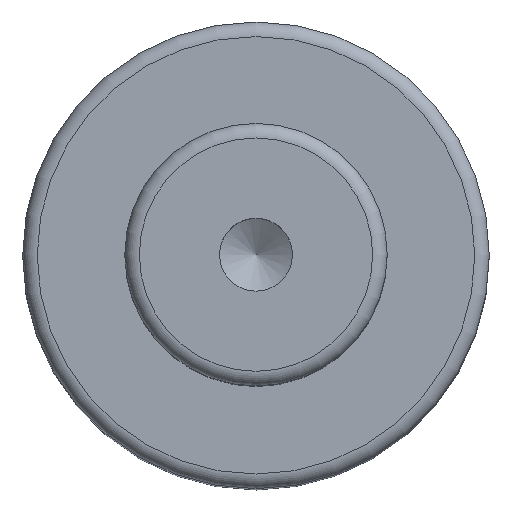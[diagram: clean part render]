
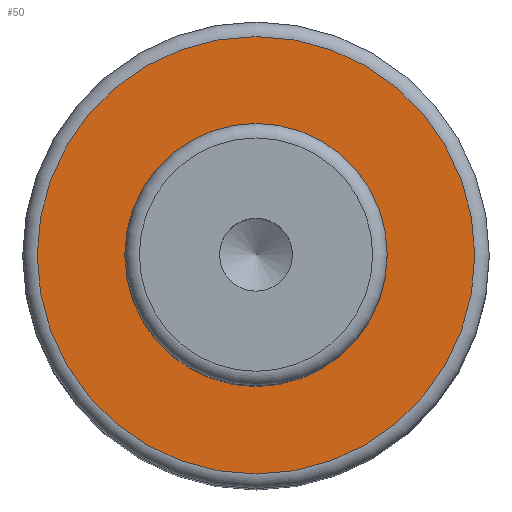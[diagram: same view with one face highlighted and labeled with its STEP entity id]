
A CAD part, top view. The second image highlights one B-rep face of the part: STEP entity #50.
In plain terms, the highlighted planar face has unit normal (0, 0, 1).
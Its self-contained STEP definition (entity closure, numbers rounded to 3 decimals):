
#40=PLANE('',#179);
#50=ADVANCED_FACE('',(#72,#73),#40,.F.);
#72=FACE_BOUND('',#96,.T.);
#73=FACE_BOUND('',#97,.T.);
#96=EDGE_LOOP('',(#118));
#97=EDGE_LOOP('',(#119));
#118=ORIENTED_EDGE('',*,*,#149,.F.);
#119=ORIENTED_EDGE('',*,*,#148,.T.);
#135=VERTEX_POINT('',#256);
#136=VERTEX_POINT('',#259);
#148=EDGE_CURVE('',#135,#135,#159,.T.);
#149=EDGE_CURVE('',#136,#136,#160,.T.);
#159=CIRCLE('',#176,9.);
#160=CIRCLE('',#178,15.);
#176=AXIS2_PLACEMENT_3D('',#255,#213,#214);
#178=AXIS2_PLACEMENT_3D('',#258,#217,#218);
#179=AXIS2_PLACEMENT_3D('',#260,#219,#220);
#213=DIRECTION('',(0.,0.,-1.));
#214=DIRECTION('',(-1.,0.,0.));
#217=DIRECTION('',(0.,0.,-1.));
#218=DIRECTION('',(-1.,0.,0.));
#219=DIRECTION('',(0.,0.,-1.));
#220=DIRECTION('',(-1.,0.,0.));
#255=CARTESIAN_POINT('',(0.,0.,54.));
#256=CARTESIAN_POINT('',(-9.,0.,54.));
#258=CARTESIAN_POINT('',(0.,0.,54.));
#259=CARTESIAN_POINT('',(-15.,0.,54.));
#260=CARTESIAN_POINT('',(9.,0.,54.));
